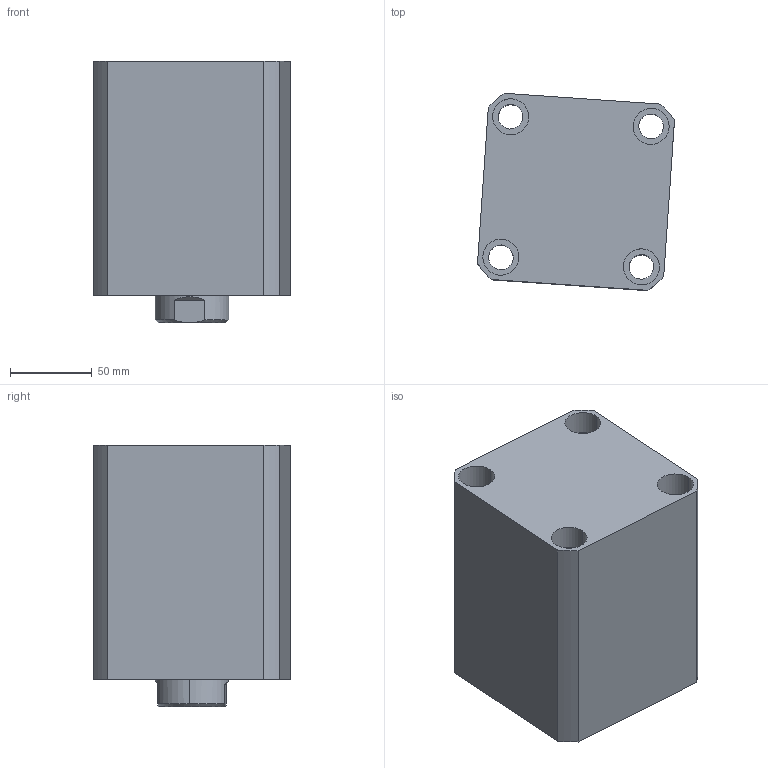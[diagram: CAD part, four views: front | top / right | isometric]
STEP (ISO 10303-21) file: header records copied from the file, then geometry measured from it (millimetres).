
FILE_DESCRIPTION (( 'STEP AP214' ), '1' );
FILE_NAME ('chtb-sdma80x65n_asm.STEP', '2018-05-29T02:20:41', ( 'Windows' ), ( 'Microsoft' ), 'SwSTEP 2.0', 'SolidWorks 2015', '' );
FILE_SCHEMA (( 'AUTOMOTIVE_DESIGN' ));
Length unit declared in the file: millimetre
Products named in the file (4): CHTB-SDMA80X65NBT; CHTB-SD80X65NHSG; CHTB-SD80QG; chtb-sdma80x65n_asm
Assembly tree (3 placements, depth 2):
  chtb-sdma80x65n_asm
    CHTB-SD80QG
    CHTB-SD80X65NHSG
    CHTB-SDMA80X65NBT
Bounding box: 120.32 x 120.32 x 160 mm (x, y, z)
Volume: 1472762.4 mm3; surface area: 217464.6 mm2
Topology: 3 solids, 3 shells, 190 faces, 516 edges, 345 vertices
Faces by surface type: cylinder 107, plane 35, torus 18, cone 16, bspline 14
Entity records: 15170 total; most frequent: CARTESIAN_POINT 10463, ORIENTED_EDGE 1020, DIRECTION 879, EDGE_CURVE 510, AXIS2_PLACEMENT_3D 368, VERTEX_POINT 345, EDGE_LOOP 227, ADVANCED_FACE 190
